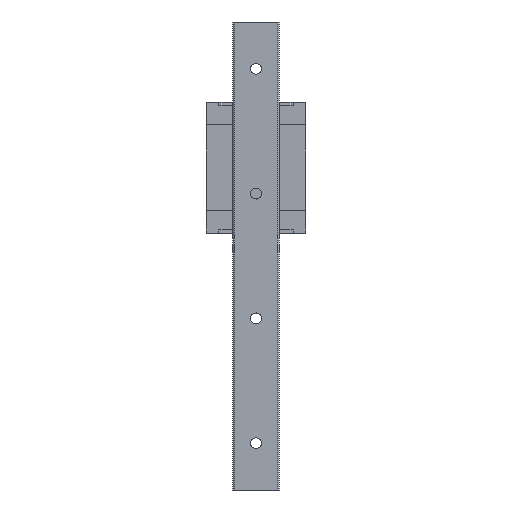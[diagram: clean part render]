
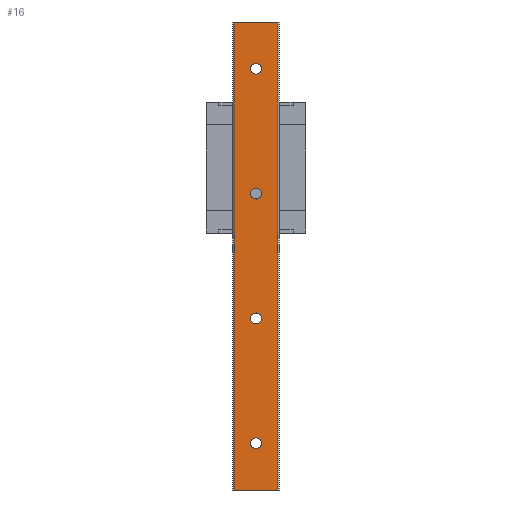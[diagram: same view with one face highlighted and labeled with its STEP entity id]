
A CAD part, front view. The second image highlights one B-rep face of the part: STEP entity #16.
In plain terms, the highlighted planar face has unit normal (0, -1, 0).
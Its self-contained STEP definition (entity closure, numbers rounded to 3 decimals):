
#1 = CIRCLE ( 'NONE', #3229, 1.75 ) ;
#16 = ADVANCED_FACE ( 'NONE', ( #9818, #7110, #3702, #1030, #1490 ), #10318, .F. ) ;
#44 = CARTESIAN_POINT ( 'NONE',  ( 0., 0., 16.75 ) ) ;
#91 = ORIENTED_EDGE ( 'NONE', *, *, #12064, .T. ) ;
#150 = ORIENTED_EDGE ( 'NONE', *, *, #5859, .T. ) ;
#238 = CARTESIAN_POINT ( 'NONE',  ( 0., 0., 95. ) ) ;
#433 = VERTEX_POINT ( 'NONE', #5494 ) ;
#528 = CARTESIAN_POINT ( 'NONE',  ( 0., 0., 135. ) ) ;
#576 = CARTESIAN_POINT ( 'NONE',  ( 0., 0., 133.25 ) ) ;
#856 = ORIENTED_EDGE ( 'NONE', *, *, #1398, .F. ) ;
#866 = ORIENTED_EDGE ( 'NONE', *, *, #6118, .T. ) ;
#1030 = FACE_BOUND ( 'NONE', #4728, .T. ) ;
#1201 = CARTESIAN_POINT ( 'NONE',  ( -6.9, 0., 150. ) ) ;
#1398 = EDGE_CURVE ( 'NONE', #7083, #9004, #4119, .T. ) ;
#1477 = LINE ( 'NONE', #2816, #1957 ) ;
#1490 = FACE_BOUND ( 'NONE', #7036, .T. ) ;
#1567 = LINE ( 'NONE', #12717, #7192 ) ;
#1579 = CARTESIAN_POINT ( 'NONE',  ( 0., 0., 95. ) ) ;
#1880 = VERTEX_POINT ( 'NONE', #10603 ) ;
#1957 = VECTOR ( 'NONE', #8934, 1000. ) ;
#2431 = DIRECTION ( 'NONE',  ( 0., 1., 0. ) ) ;
#2607 = ORIENTED_EDGE ( 'NONE', *, *, #9705, .T. ) ;
#2794 = DIRECTION ( 'NONE',  ( 0., 0., -1. ) ) ;
#2816 = CARTESIAN_POINT ( 'NONE',  ( 6.9, 0., 150. ) ) ;
#3034 = CIRCLE ( 'NONE', #8483, 1.75 ) ;
#3229 = AXIS2_PLACEMENT_3D ( 'NONE', #5626, #7662, #9583 ) ;
#3280 = DIRECTION ( 'NONE',  ( 0., 1., 0. ) ) ;
#3447 = AXIS2_PLACEMENT_3D ( 'NONE', #528, #2431, #7470 ) ;
#3482 = CARTESIAN_POINT ( 'NONE',  ( 0., 0., 135. ) ) ;
#3590 = CARTESIAN_POINT ( 'NONE',  ( -6.9, 0., 0. ) ) ;
#3702 = FACE_OUTER_BOUND ( 'NONE', #8020, .T. ) ;
#3735 = EDGE_CURVE ( 'NONE', #1880, #4182, #3034, .T. ) ;
#3796 = DIRECTION ( 'NONE',  ( 0., 0., 1. ) ) ;
#3848 = VERTEX_POINT ( 'NONE', #3590 ) ;
#3938 = AXIS2_PLACEMENT_3D ( 'NONE', #1579, #8678, #4727 ) ;
#4074 = CARTESIAN_POINT ( 'NONE',  ( -6.9, 0., 0. ) ) ;
#4119 = LINE ( 'NONE', #6731, #4743 ) ;
#4126 = DIRECTION ( 'NONE',  ( 1., 0., 0. ) ) ;
#4182 = VERTEX_POINT ( 'NONE', #5918 ) ;
#4278 = DIRECTION ( 'NONE',  ( 0., 0., 1. ) ) ;
#4299 = EDGE_CURVE ( 'NONE', #3848, #433, #5840, .T. ) ;
#4388 = AXIS2_PLACEMENT_3D ( 'NONE', #1201, #7290, #5339 ) ;
#4558 = DIRECTION ( 'NONE',  ( 0., 1., 0. ) ) ;
#4673 = CARTESIAN_POINT ( 'NONE',  ( 0., 0., 13.25 ) ) ;
#4685 = DIRECTION ( 'NONE',  ( 0., 0., 1. ) ) ;
#4724 = AXIS2_PLACEMENT_3D ( 'NONE', #6430, #4558, #7388 ) ;
#4727 = DIRECTION ( 'NONE',  ( 0., 0., 1. ) ) ;
#4728 = EDGE_LOOP ( 'NONE', ( #7765, #6305 ) ) ;
#4743 = VECTOR ( 'NONE', #5611, 1000. ) ;
#5339 = DIRECTION ( 'NONE',  ( 0., 0., 1. ) ) ;
#5376 = EDGE_CURVE ( 'NONE', #6676, #12507, #1, .T. ) ;
#5494 = CARTESIAN_POINT ( 'NONE',  ( 6.9, 0., 0. ) ) ;
#5576 = CARTESIAN_POINT ( 'NONE',  ( 0., 0., 56.75 ) ) ;
#5611 = DIRECTION ( 'NONE',  ( 1., 0., 0. ) ) ;
#5626 = CARTESIAN_POINT ( 'NONE',  ( 0., 0., 55. ) ) ;
#5636 = CARTESIAN_POINT ( 'NONE',  ( 6.9, 0., 150. ) ) ;
#5758 = CARTESIAN_POINT ( 'NONE',  ( 0., 0., 53.25 ) ) ;
#5764 = DIRECTION ( 'NONE',  ( 0., 1., 0. ) ) ;
#5818 = CIRCLE ( 'NONE', #3938, 1.75 ) ;
#5840 = LINE ( 'NONE', #4074, #9931 ) ;
#5853 = VERTEX_POINT ( 'NONE', #576 ) ;
#5859 = EDGE_CURVE ( 'NONE', #11052, #7126, #7035, .T. ) ;
#5918 = CARTESIAN_POINT ( 'NONE',  ( 0., 0., 93.25 ) ) ;
#6002 = CARTESIAN_POINT ( 'NONE',  ( 0., 0., 136.75 ) ) ;
#6118 = EDGE_CURVE ( 'NONE', #12507, #6676, #11814, .T. ) ;
#6274 = VERTEX_POINT ( 'NONE', #6002 ) ;
#6305 = ORIENTED_EDGE ( 'NONE', *, *, #12961, .T. ) ;
#6342 = CIRCLE ( 'NONE', #6412, 1.75 ) ;
#6411 = EDGE_LOOP ( 'NONE', ( #2607, #150 ) ) ;
#6412 = AXIS2_PLACEMENT_3D ( 'NONE', #7838, #5764, #3796 ) ;
#6430 = CARTESIAN_POINT ( 'NONE',  ( 0., 0., 15. ) ) ;
#6534 = EDGE_CURVE ( 'NONE', #7083, #3848, #1567, .T. ) ;
#6676 = VERTEX_POINT ( 'NONE', #5576 ) ;
#6731 = CARTESIAN_POINT ( 'NONE',  ( -6.9, 0., 150. ) ) ;
#7035 = CIRCLE ( 'NONE', #4724, 1.75 ) ;
#7036 = EDGE_LOOP ( 'NONE', ( #91, #12977 ) ) ;
#7083 = VERTEX_POINT ( 'NONE', #9974 ) ;
#7110 = FACE_BOUND ( 'NONE', #6411, .T. ) ;
#7126 = VERTEX_POINT ( 'NONE', #44 ) ;
#7140 = AXIS2_PLACEMENT_3D ( 'NONE', #12790, #10719, #4685 ) ;
#7192 = VECTOR ( 'NONE', #2794, 1000. ) ;
#7290 = DIRECTION ( 'NONE',  ( 0., 1., 0. ) ) ;
#7367 = CIRCLE ( 'NONE', #3447, 1.75 ) ;
#7372 = ORIENTED_EDGE ( 'NONE', *, *, #5376, .T. ) ;
#7388 = DIRECTION ( 'NONE',  ( 0., 0., 1. ) ) ;
#7393 = DIRECTION ( 'NONE',  ( 0., 1., 0. ) ) ;
#7470 = DIRECTION ( 'NONE',  ( 0., 0., 1. ) ) ;
#7662 = DIRECTION ( 'NONE',  ( 0., 1., 0. ) ) ;
#7765 = ORIENTED_EDGE ( 'NONE', *, *, #3735, .T. ) ;
#7838 = CARTESIAN_POINT ( 'NONE',  ( 0., 0., 15. ) ) ;
#8020 = EDGE_LOOP ( 'NONE', ( #10356, #9122, #856, #12546 ) ) ;
#8483 = AXIS2_PLACEMENT_3D ( 'NONE', #238, #3280, #4278 ) ;
#8678 = DIRECTION ( 'NONE',  ( 0., 1., 0. ) ) ;
#8934 = DIRECTION ( 'NONE',  ( 0., 0., -1. ) ) ;
#8962 = AXIS2_PLACEMENT_3D ( 'NONE', #3482, #7393, #9437 ) ;
#9004 = VERTEX_POINT ( 'NONE', #5636 ) ;
#9122 = ORIENTED_EDGE ( 'NONE', *, *, #10385, .F. ) ;
#9437 = DIRECTION ( 'NONE',  ( 0., 0., 1. ) ) ;
#9583 = DIRECTION ( 'NONE',  ( 0., 0., 1. ) ) ;
#9705 = EDGE_CURVE ( 'NONE', #7126, #11052, #6342, .T. ) ;
#9818 = FACE_BOUND ( 'NONE', #11268, .T. ) ;
#9931 = VECTOR ( 'NONE', #4126, 1000. ) ;
#9974 = CARTESIAN_POINT ( 'NONE',  ( -6.9, 0., 150. ) ) ;
#10318 = PLANE ( 'NONE',  #4388 ) ;
#10356 = ORIENTED_EDGE ( 'NONE', *, *, #4299, .T. ) ;
#10385 = EDGE_CURVE ( 'NONE', #9004, #433, #1477, .T. ) ;
#10603 = CARTESIAN_POINT ( 'NONE',  ( 0., 0., 96.75 ) ) ;
#10719 = DIRECTION ( 'NONE',  ( 0., 1., 0. ) ) ;
#11052 = VERTEX_POINT ( 'NONE', #4673 ) ;
#11268 = EDGE_LOOP ( 'NONE', ( #7372, #866 ) ) ;
#11518 = CIRCLE ( 'NONE', #8962, 1.75 ) ;
#11814 = CIRCLE ( 'NONE', #7140, 1.75 ) ;
#12064 = EDGE_CURVE ( 'NONE', #6274, #5853, #11518, .T. ) ;
#12507 = VERTEX_POINT ( 'NONE', #5758 ) ;
#12546 = ORIENTED_EDGE ( 'NONE', *, *, #6534, .T. ) ;
#12717 = CARTESIAN_POINT ( 'NONE',  ( -6.9, 0., 150. ) ) ;
#12790 = CARTESIAN_POINT ( 'NONE',  ( 0., 0., 55. ) ) ;
#12877 = EDGE_CURVE ( 'NONE', #5853, #6274, #7367, .T. ) ;
#12961 = EDGE_CURVE ( 'NONE', #4182, #1880, #5818, .T. ) ;
#12977 = ORIENTED_EDGE ( 'NONE', *, *, #12877, .T. ) ;
